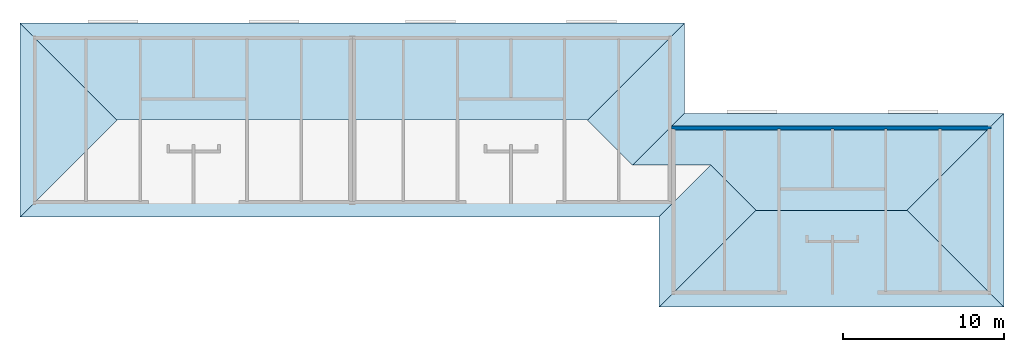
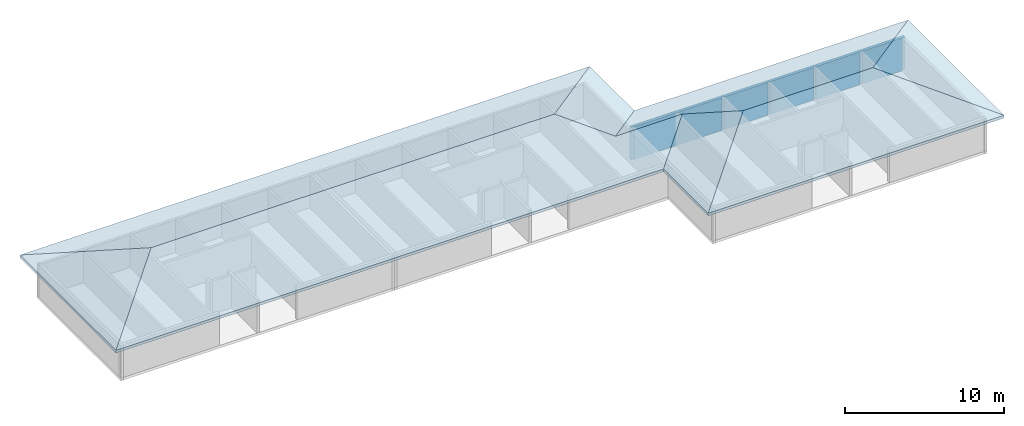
# One storey, part 10 of 10: 8 roofs, 1 wall.
"""IFC2X3 building model written with IfcOpenShell, lengths in metres."""

import ifcopenshell
import ifcopenshell.guid

model = None  # the IFC model being written
_history = None  # IfcOwnerHistory: only IFC2X3 demands one
_inside = {}  # id of a spatial element -> (the spatial element, [elements in it])
_under = {}  # id of a project, library or spatial element -> (it, [spatial elements below it])
_declared = {}  # id of a project -> (the project, [libraries it declares])
_typed = {}  # id of a type object -> (the type object, [elements of that type])
_made_of = {}  # id of a material, layer set ... -> (it, [elements and type objects made of it])


def new_model(schema):
    """Start an empty IFC model of exactly this schema.

    Asked for "IFC4X3", IfcOpenShell would pick the latest addendum, in which some entities
    have other attributes; the version numbers below select the first issue.
    IFC2X3 requires an IfcOwnerHistory on every rooted entity: one is made here for all.
    """
    global model, _history
    if schema == "IFC4X3":
        model = ifcopenshell.file(schema_version=(4, 3, 0, 0))
    else:
        model = ifcopenshell.file(schema=schema)
    _inside.clear()
    _under.clear()
    _declared.clear()
    _typed.clear()
    _made_of.clear()
    _history = None
    if model.schema == "IFC2X3":
        org = make("IfcOrganization", Name="unknown")
        user = make(
            "IfcPersonAndOrganization",
            ThePerson=make("IfcPerson", FamilyName="unknown"),
            TheOrganization=org,
        )
        app = make(
            "IfcApplication",
            ApplicationDeveloper=org,
            Version="unknown",
            ApplicationFullName="unknown",
            ApplicationIdentifier="unknown",
        )
        _history = make(
            "IfcOwnerHistory",
            OwningUser=user,
            OwningApplication=app,
            ChangeAction="ADDED",
            CreationDate=0,
        )
    return model


def make(cls, **values):
    """One entity of the class cls with the attributes given. An attribute that is None is left unset."""
    return model.create_entity(
        cls, **{name: value for name, value in values.items() if value is not None}
    )


def rooted(cls, **values):
    """An entity with a GlobalId (a new one), such as an element, a storey or a relation."""
    return make(cls, GlobalId=ifcopenshell.guid.new(), OwnerHistory=_history, **values)


def si_unit(unit_type, name, prefix=None):
    """IfcSIUnit, for example si_unit("LENGTHUNIT", "METRE", prefix="MILLI")."""
    return make("IfcSIUnit", UnitType=unit_type, Prefix=prefix, Name=name)


def assignment(units):
    """IfcUnitAssignment: the units of a project."""
    return None if units is None else make("IfcUnitAssignment", Units=units)


def point(xyz):
    """IfcCartesianPoint."""
    return None if xyz is None else make("IfcCartesianPoint", Coordinates=xyz)


def direction(xyz):
    """IfcDirection."""
    return None if xyz is None else make("IfcDirection", DirectionRatios=xyz)


def frame(location, z_axis=None, x_axis=None):
    """IfcAxis2Placement3D, a coordinate frame: its origin and axes. An axis left out is left unset."""
    return make(
        "IfcAxis2Placement3D",
        Location=point(location),
        Axis=direction(z_axis),
        RefDirection=direction(x_axis),
    )


def origin():
    """The frame at (0, 0, 0) with its axes left unset."""
    return frame((0.0, 0.0, 0.0))


def origin_with_axes():
    """The frame at (0, 0, 0) with the z axis (0, 0, 1) and the x axis (1, 0, 0) written out."""
    return frame((0.0, 0.0, 0.0), z_axis=(0.0, 0.0, 1.0), x_axis=(1.0, 0.0, 0.0))


def place(relative_to, where):
    """IfcLocalPlacement: puts the frame where relative to a parent placement (None: the world)."""
    return make(
        "IfcLocalPlacement", PlacementRelTo=relative_to, RelativePlacement=where
    )


def context(
    kind, dimensions, precision=None, world=None, true_north=None, identifier=None
):
    """IfcGeometricRepresentationContext, for example the 3D "Model" context."""
    return make(
        "IfcGeometricRepresentationContext",
        ContextIdentifier=identifier,
        ContextType=kind,
        CoordinateSpaceDimension=dimensions,
        Precision=precision,
        WorldCoordinateSystem=world,
        TrueNorth=true_north,
    )


def project(units=None, contexts=None):
    """IfcProject with its units and contexts."""
    return rooted(
        "IfcProject",
        Name="project",
        RepresentationContexts=contexts,
        UnitsInContext=assignment(units),
    )


def spatial(cls, under=None, at=None, **own):
    """A site, building, storey or space (cls), placed at a placement, below another one or the project."""
    s = rooted(cls, ObjectPlacement=at, **own)
    if under is not None:
        _under.setdefault(under.id(), (under, []))[1].append(s)
    return s


def faces_of(points, faces, orient=None, outer=None):
    """IfcFace entities. A face is a list of loops; a loop is a list of indices into points, from 0.

    orient and outer hold one flag for each loop. By default every Orientation is true, the
    first loop of a face is its IfcFaceOuterBound and the others are IfcFaceBound.
    """
    made = []
    for i, loops in enumerate(faces):
        bounds = []
        for j, loop in enumerate(loops):
            is_outer = j == 0 if outer is None else outer[i][j]
            bounds.append(
                make(
                    "IfcFaceOuterBound" if is_outer else "IfcFaceBound",
                    Bound=make("IfcPolyLoop", Polygon=[points[k] for k in loop]),
                    Orientation=True if orient is None else orient[i][j],
                )
            )
        made.append(make("IfcFace", Bounds=bounds))
    return made


def faceted_brep(points, faces, orient=None, outer=None, voids=None):
    """IfcFacetedBrep: a solid bounded by flat faces; with voids (closed shells), ...WithVoids."""
    shared = [point(p) for p in points]
    hull = make("IfcClosedShell", CfsFaces=faces_of(shared, faces, orient, outer))
    if voids is None:
        return make("IfcFacetedBrep", Outer=hull)
    return make(
        "IfcFacetedBrepWithVoids",
        Outer=hull,
        Voids=[
            make(cls, CfsFaces=faces_of(shared, fs, o, b)) for cls, fs, o, b in voids
        ],
    )


def shape(context_of_items, identifier, shape_type, items):
    """IfcShapeRepresentation: the items that make up one representation, for example the "Body"."""
    return make(
        "IfcShapeRepresentation",
        ContextOfItems=context_of_items,
        RepresentationIdentifier=identifier,
        RepresentationType=shape_type,
        Items=items,
    )


def made_of(thing, what):
    """Note that an element or type object is made of a material, layer set ...; save() writes the relation."""
    if what is not None:
        _made_of.setdefault(what.id(), (what, []))[1].append(thing)
    return thing


def element(
    cls,
    number,
    at=None,
    inside=None,
    cuts=None,
    type_object=None,
    material=None,
    context=None,
    identifier="Body",
    shape_type=None,
    held_by="IfcProductDefinitionShape",
    body=None,
    shapes=None,
    **own,
):
    """One element of the class cls, such as IfcWall. Its Tag is "e" and its number.

    at: its placement. inside: the storey or other place that contains it. cuts: it is an
    opening in that element (IfcRelVoidsElement). A single representation is given by context,
    identifier, shape_type and body (its items); several are given by shapes. held_by: the class
    of the entity that holds the representations. save() writes the other relations.
    """
    e = rooted(cls, Tag="e%d" % number, ObjectPlacement=at, **own)
    if body is not None:
        shapes = [shape(context, identifier, shape_type, body)]
    if shapes is not None:
        e.Representation = make(held_by, Representations=shapes)
    if inside is not None:
        _inside.setdefault(inside.id(), (inside, []))[1].append(e)
    if cuts is not None:
        rooted(
            "IfcRelVoidsElement", RelatingBuildingElement=cuts, RelatedOpeningElement=e
        )
    if type_object is not None:
        _typed.setdefault(type_object.id(), (type_object, []))[1].append(e)
    return made_of(e, material)


def aggregate(whole, parts):
    """IfcRelAggregates: a whole, such as a stair, and the parts it consists of."""
    return rooted("IfcRelAggregates", RelatingObject=whole, RelatedObjects=parts)


def save(model, path):
    """Write the relations noted so far, then the file.

    IfcRelAggregates (storeys below a building ...), IfcRelContainedInSpatialStructure (elements
    in a storey), IfcRelDefinesByType, IfcRelAssociatesMaterial and IfcRelDeclares: one each for
    every whole, place, type object, material and project.
    """
    for whole, parts in _under.values():
        aggregate(whole, parts)
    for where, things in _inside.values():
        rooted(
            "IfcRelContainedInSpatialStructure",
            RelatedElements=things,
            RelatingStructure=where,
        )
    for kind, things in _typed.values():
        rooted("IfcRelDefinesByType", RelatedObjects=things, RelatingType=kind)
    for what, things in _made_of.values():
        rooted("IfcRelAssociatesMaterial", RelatedObjects=things, RelatingMaterial=what)
    for by, libraries in _declared.values():
        rooted("IfcRelDeclares", RelatingContext=by, RelatedDefinitions=libraries)
    model.write(path)


model = new_model("IFC2X3")

# Units and contexts
model_context = context("Model", 3, precision=1e-06, world=origin())
ifc_project = project(units=[si_unit("LENGTHUNIT", "METRE"), si_unit("PLANEANGLEUNIT", "RADIAN")], contexts=[model_context])

# Site, building, storey
site = spatial("IfcSite", under=ifc_project, CompositionType="ELEMENT")
building = spatial("IfcBuilding", under=site, CompositionType="ELEMENT")
storey = spatial("IfcBuildingStorey", under=building, Name="r+3", CompositionType="ELEMENT", Elevation=8.1)

# Wall
placement = place(None, origin())
wall_placement = place(placement, frame((59.54999999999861, 4.870077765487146, 8.1), z_axis=(0.0, 0.0, 1.0), x_axis=(-1.0, 0.0, 0.0)))
element("IfcWall", 1, at=wall_placement, inside=storey, context=model_context, shape_type="Brep", body=[
    faceted_brep([(3.079999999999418, 0.18, 2.5), (3.259999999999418, 0.18, 2.5), (3.259999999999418, 0.18, 0.0), (3.079999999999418, 0.18, 0.0), (3.259999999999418, 0.18, 2.5), (3.259999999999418, 0.23, 2.5), (3.259999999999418, 0.23, 0.0), (3.259999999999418, 0.18, 0.0), (3.259999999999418, 0.23, 2.5), (6.460000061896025, 0.23, 2.5), (6.460000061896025, 0.23, 0.0), (3.259999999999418, 0.23, 0.0), (6.460000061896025, 0.23, 2.5), (6.460000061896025, 0.180000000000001, 2.5), (6.460000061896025, 0.180000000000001, 0.0), (6.460000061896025, 0.23, 0.0), (6.460000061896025, 0.180000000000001, 2.5), (6.640000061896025, 0.180000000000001, 2.5), (6.640000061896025, 0.180000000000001, 0.0), (6.460000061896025, 0.180000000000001, 0.0), (6.640000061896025, 0.180000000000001, 2.5), (6.640000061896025, 0.23, 2.5), (6.640000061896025, 0.23, 0.0), (6.640000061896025, 0.180000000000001, 0.0), (6.640000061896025, 0.23, 2.5), (9.774999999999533, 0.23, 2.5), (9.774999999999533, 0.23, 0.0), (6.640000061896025, 0.23, 0.0), (9.774999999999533, 0.23, 2.5), (9.774999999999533, 0.180000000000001, 2.5), (9.774999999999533, 0.180000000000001, 0.0), (9.774999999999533, 0.23, 0.0), (9.774999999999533, 0.180000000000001, 2.5), (9.954999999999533, 0.180000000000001, 2.5), (9.954999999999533, 0.180000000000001, 0.0), (9.774999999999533, 0.180000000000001, 0.0), (9.954999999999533, 0.180000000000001, 2.5), (9.954999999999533, 0.23, 2.5), (9.954999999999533, 0.23, 0.0), (9.954999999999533, 0.180000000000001, 0.0), (9.954999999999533, 0.23, 2.5), (13.089999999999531, 0.23, 2.5), (13.089999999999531, 0.23, 0.0), (9.954999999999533, 0.23, 0.0), (13.089999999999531, 0.23, 2.5), (13.089999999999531, 0.18, 2.5), (13.089999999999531, 0.18, 0.0), (13.089999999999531, 0.23, 0.0), (13.089999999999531, 0.18, 2.5), (13.26999999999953, 0.18, 2.5), (13.26999999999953, 0.18, 0.0), (13.089999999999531, 0.18, 0.0), (13.26999999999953, 0.18, 2.5), (13.26999999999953, 0.23, 2.5), (13.26999999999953, 0.23, 0.0), (13.26999999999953, 0.18, 0.0), (13.26999999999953, 0.23, 2.5), (19.619999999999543, 0.23, 2.5), (19.619999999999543, 0.23, 0.0), (13.26999999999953, 0.23, 0.0), (19.619999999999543, 0.23, 2.5), (19.619999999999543, 0.22, 2.5), (19.619999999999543, 0.22, 0.0), (19.619999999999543, 0.23, 0.0), (19.619999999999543, 0.22, 2.5), (19.669999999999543, 0.22, 2.5), (19.669999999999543, 0.22, 0.0), (19.619999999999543, 0.22, 0.0), (19.669999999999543, 0.22, 2.5), (19.669999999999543, 0.18, 2.5), (19.669999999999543, 0.18, 0.0), (19.669999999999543, 0.22, 0.0), (19.669999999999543, 0.18, 2.5), (19.849999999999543, 0.18, 2.5), (19.849999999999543, 0.18, 0.0), (19.669999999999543, 0.18, 0.0), (19.849999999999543, 0.18, 2.5), (19.849999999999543, 0.0, 2.5), (19.849999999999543, 0.0, 0.0), (19.849999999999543, 0.18, 0.0), (19.849999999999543, 0.0, 2.5), (0.0, 0.0, 2.5), (0.0, 0.0, 0.0), (19.849999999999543, 0.0, 0.0), (0.0, 0.0, 2.5), (0.0, 0.18, 2.5), (0.0, 0.18, 0.0), (0.0, 0.0, 0.0), (0.0, 0.18, 2.5), (0.18, 0.18, 2.5), (0.18, 0.18, 0.0), (0.0, 0.18, 0.0), (0.18, 0.18, 2.5), (0.18, 0.22, 2.5), (0.18, 0.22, 0.0), (0.18, 0.18, 0.0), (0.18, 0.22, 2.5), (0.22, 0.22, 2.5), (0.22, 0.22, 0.0), (0.18, 0.22, 0.0), (0.22, 0.22, 2.5), (0.22, 0.23, 2.5), (0.22, 0.23, 0.0), (0.22, 0.22, 0.0), (0.22, 0.23, 2.5), (3.079999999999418, 0.23, 2.5), (3.079999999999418, 0.23, 0.0), (0.22, 0.23, 0.0), (3.079999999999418, 0.23, 2.5), (3.079999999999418, 0.18, 2.5), (3.079999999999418, 0.18, 0.0), (3.079999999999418, 0.23, 0.0), (3.079999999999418, 0.18, 2.5), (3.079999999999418, 0.23, 2.5), (0.22, 0.23, 2.5), (0.22, 0.22, 2.5), (0.18, 0.22, 2.5), (0.18, 0.18, 2.5), (0.0, 0.18, 2.5), (0.0, 0.0, 2.5), (19.849999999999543, 0.0, 2.5), (19.849999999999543, 0.18, 2.5), (19.669999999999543, 0.18, 2.5), (19.669999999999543, 0.22, 2.5), (19.619999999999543, 0.22, 2.5), (19.619999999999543, 0.23, 2.5), (13.26999999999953, 0.23, 2.5), (13.26999999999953, 0.18, 2.5), (13.089999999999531, 0.18, 2.5), (13.089999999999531, 0.23, 2.5), (9.954999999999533, 0.23, 2.5), (9.954999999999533, 0.180000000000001, 2.5), (9.774999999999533, 0.180000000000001, 2.5), (9.774999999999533, 0.23, 2.5), (6.640000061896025, 0.23, 2.5), (6.640000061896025, 0.180000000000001, 2.5), (6.460000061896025, 0.180000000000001, 2.5), (6.460000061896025, 0.23, 2.5), (3.259999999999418, 0.23, 2.5), (3.259999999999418, 0.18, 2.5), (3.079999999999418, 0.18, 0.0), (3.259999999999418, 0.18, 0.0), (3.259999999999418, 0.23, 0.0), (6.460000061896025, 0.23, 0.0), (6.460000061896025, 0.180000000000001, 0.0), (6.640000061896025, 0.180000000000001, 0.0), (6.640000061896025, 0.23, 0.0), (9.774999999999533, 0.23, 0.0), (9.774999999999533, 0.180000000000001, 0.0), (9.954999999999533, 0.180000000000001, 0.0), (9.954999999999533, 0.23, 0.0), (13.089999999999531, 0.23, 0.0), (13.089999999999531, 0.18, 0.0), (13.26999999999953, 0.18, 0.0), (13.26999999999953, 0.23, 0.0), (19.619999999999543, 0.23, 0.0), (19.619999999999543, 0.22, 0.0), (19.669999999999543, 0.22, 0.0), (19.669999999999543, 0.18, 0.0), (19.849999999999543, 0.18, 0.0), (19.849999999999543, 0.0, 0.0), (0.0, 0.0, 0.0), (0.0, 0.18, 0.0), (0.18, 0.18, 0.0), (0.18, 0.22, 0.0), (0.22, 0.22, 0.0), (0.22, 0.23, 0.0), (3.079999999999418, 0.23, 0.0)], [[[0, 1, 2, 3]], [[4, 5, 6, 7]], [[8, 9, 10, 11]], [[12, 13, 14, 15]], [[16, 17, 18, 19]], [[20, 21, 22, 23]], [[24, 25, 26, 27]], [[28, 29, 30, 31]], [[32, 33, 34, 35]], [[36, 37, 38, 39]], [[40, 41, 42, 43]], [[44, 45, 46, 47]], [[48, 49, 50, 51]], [[52, 53, 54, 55]], [[56, 57, 58, 59]], [[60, 61, 62, 63]], [[64, 65, 66, 67]], [[68, 69, 70, 71]], [[72, 73, 74, 75]], [[76, 77, 78, 79]], [[80, 81, 82, 83]], [[84, 85, 86, 87]], [[88, 89, 90, 91]], [[92, 93, 94, 95]], [[96, 97, 98, 99]], [[100, 101, 102, 103]], [[104, 105, 106, 107]], [[108, 109, 110, 111]], [[112, 113, 114, 115, 116, 117, 118, 119, 120, 121, 122, 123, 124, 125, 126, 127, 128, 129, 130, 131, 132, 133, 134, 135, 136, 137, 138, 139]], [[140, 141, 142, 143, 144, 145, 146, 147, 148, 149, 150, 151, 152, 153, 154, 155, 156, 157, 158, 159, 160, 161, 162, 163, 164, 165, 166, 167]]]),
])

# Roofs
roof_1_placement = place(placement, origin_with_axes())
element("IfcRoof", 2, at=roof_1_placement, inside=storey, context=model_context, shape_type="Brep", body=[
    faceted_brep([(37.27499989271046, 2.445077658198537, 11.92875003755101), (37.274999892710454, 2.445077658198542, 12.140646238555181), (40.49999999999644, 5.670077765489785, 11.01189620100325), (40.50000000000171, 5.670077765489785, 10.79999999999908), (40.50000000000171, 5.670077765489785, 10.79999999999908), (40.49999999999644, 5.670077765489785, 11.01189620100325), (60.34999999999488, 5.670077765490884, 11.01189620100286), (60.350000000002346, 5.670077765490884, 10.79999999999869), (60.350000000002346, 5.670077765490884, 10.79999999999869), (60.34999999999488, 5.670077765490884, 11.01189620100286), (54.324999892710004, -0.354922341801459, 13.12064623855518), (54.324999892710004, -0.354922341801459, 12.908750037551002), (54.324999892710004, -0.354922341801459, 12.908750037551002), (54.324999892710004, -0.354922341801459, 13.12064623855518), (44.92500010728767, -0.354922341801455, 13.12064623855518), (44.925000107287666, -0.354922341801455, 12.908750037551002), (44.925000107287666, -0.354922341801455, 12.908750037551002), (44.92500010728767, -0.354922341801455, 13.12064623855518), (42.125000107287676, 2.44507765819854, 12.140646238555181), (42.125000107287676, 2.445077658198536, 11.92875003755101), (42.125000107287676, 2.445077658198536, 11.92875003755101), (42.125000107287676, 2.44507765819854, 12.140646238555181), (37.274999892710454, 2.445077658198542, 12.140646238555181), (37.27499989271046, 2.445077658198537, 11.92875003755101), (37.274999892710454, 2.445077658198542, 12.140646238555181), (42.125000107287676, 2.44507765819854, 12.140646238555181), (44.92500010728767, -0.354922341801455, 13.12064623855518), (54.324999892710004, -0.354922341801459, 13.12064623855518), (60.34999999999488, 5.670077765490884, 11.01189620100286), (40.49999999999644, 5.670077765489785, 11.01189620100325), (60.350000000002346, 5.670077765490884, 10.79999999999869), (54.324999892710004, -0.354922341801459, 12.908750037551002), (44.925000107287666, -0.354922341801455, 12.908750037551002), (42.125000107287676, 2.445077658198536, 11.92875003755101), (37.27499989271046, 2.445077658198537, 11.92875003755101), (40.50000000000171, 5.670077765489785, 10.79999999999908)], [[[0, 1, 2, 3]], [[4, 5, 6, 7]], [[8, 9, 10, 11]], [[12, 13, 14, 15]], [[16, 17, 18, 19]], [[20, 21, 22, 23]], [[24, 25, 26, 27, 28, 29]], [[30, 31, 32, 33, 34, 35]]]),
])
roof_2_placement = place(placement, origin_with_axes())
element("IfcRoof", 3, at=roof_2_placement, inside=storey, context=model_context, shape_type="Brep", body=[
    faceted_brep([(44.925000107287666, -0.354922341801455, 12.908750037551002), (44.92500010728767, -0.354922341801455, 13.12064623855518), (38.899998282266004, -6.379924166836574, 11.011895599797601), (38.899998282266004, -6.37992416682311, 10.79999939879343), (38.899998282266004, -6.37992416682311, 10.79999939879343), (38.899998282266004, -6.379924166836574, 11.011895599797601), (38.90000000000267, -0.779922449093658, 11.01189620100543), (38.90000000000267, -0.779922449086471, 10.80000000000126), (38.90000000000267, -0.779922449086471, 10.80000000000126), (38.90000000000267, -0.779922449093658, 11.01189620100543), (42.125000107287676, 2.44507765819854, 12.140646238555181), (42.125000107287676, 2.445077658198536, 11.92875003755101), (42.125000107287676, 2.445077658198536, 11.92875003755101), (42.125000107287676, 2.44507765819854, 12.140646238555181), (44.92500010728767, -0.354922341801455, 13.12064623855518), (44.925000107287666, -0.354922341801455, 12.908750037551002), (44.92500010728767, -0.354922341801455, 13.12064623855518), (42.125000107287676, 2.44507765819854, 12.140646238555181), (38.90000000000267, -0.779922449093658, 11.01189620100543), (38.899998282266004, -6.379924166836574, 11.011895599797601), (38.90000000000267, -0.779922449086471, 10.80000000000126), (42.125000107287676, 2.445077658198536, 11.92875003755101), (44.925000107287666, -0.354922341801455, 12.908750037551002), (38.899998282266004, -6.37992416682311, 10.79999939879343)], [[[0, 1, 2, 3]], [[4, 5, 6, 7]], [[8, 9, 10, 11]], [[12, 13, 14, 15]], [[16, 17, 18, 19]], [[20, 21, 22, 23]]]),
])
roof_3_placement = place(placement, origin_with_axes())
element("IfcRoof", 4, at=roof_3_placement, inside=storey, context=model_context, shape_type="Brep", body=[
    faceted_brep([(5.225000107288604, 5.245077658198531, 12.908750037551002), (5.225000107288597, 5.245077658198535, 13.12064623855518), (-0.800000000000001, -0.779922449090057, 11.01189620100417), (-0.8, -0.779922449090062, 10.8), (-0.8, -0.779922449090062, 10.8), (-0.800000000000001, -0.779922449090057, 11.01189620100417), (-0.8, 11.270077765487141, 11.01189620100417), (-0.8, 11.270077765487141, 10.8), (-0.8, 11.270077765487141, 10.8), (-0.8, 11.270077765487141, 11.01189620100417), (5.225000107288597, 5.245077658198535, 13.12064623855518), (5.225000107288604, 5.245077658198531, 12.908750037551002), (5.225000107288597, 5.245077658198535, 13.12064623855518), (-0.8, 11.270077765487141, 11.01189620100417), (-0.800000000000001, -0.779922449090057, 11.01189620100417), (-0.8, 11.270077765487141, 10.8), (5.225000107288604, 5.245077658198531, 12.908750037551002), (-0.8, -0.779922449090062, 10.8)], [[[0, 1, 2, 3]], [[4, 5, 6, 7]], [[8, 9, 10, 11]], [[12, 13, 14]], [[15, 16, 17]]]),
])
roof_4_placement = place(placement, origin_with_axes())
element("IfcRoof", 5, at=roof_4_placement, inside=storey, context=model_context, shape_type="Brep", body=[
    faceted_brep([(5.225000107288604, 5.245077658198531, 12.908750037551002), (5.225000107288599, 5.245077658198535, 13.12064623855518), (-0.799999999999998, 11.270077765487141, 11.01189620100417), (-0.8, 11.270077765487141, 10.8), (-0.8, 11.270077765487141, 10.8), (-0.799999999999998, 11.270077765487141, 11.01189620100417), (40.49999999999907, 11.270077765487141, 11.01189620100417), (40.49999999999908, 11.270077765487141, 10.8), (40.49999999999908, 11.270077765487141, 10.8), (40.49999999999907, 11.270077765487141, 11.01189620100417), (34.47499989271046, 5.245077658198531, 13.12064623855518), (34.474999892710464, 5.245077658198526, 12.90875003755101), (34.474999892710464, 5.245077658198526, 12.90875003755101), (34.47499989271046, 5.245077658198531, 13.12064623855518), (5.225000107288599, 5.245077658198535, 13.12064623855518), (5.225000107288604, 5.245077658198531, 12.908750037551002), (5.225000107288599, 5.245077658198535, 13.12064623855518), (34.47499989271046, 5.245077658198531, 13.12064623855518), (40.49999999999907, 11.270077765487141, 11.01189620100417), (-0.799999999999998, 11.270077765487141, 11.01189620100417), (40.49999999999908, 11.270077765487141, 10.8), (34.474999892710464, 5.245077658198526, 12.90875003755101), (5.225000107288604, 5.245077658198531, 12.908750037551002), (-0.8, 11.270077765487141, 10.8)], [[[0, 1, 2, 3]], [[4, 5, 6, 7]], [[8, 9, 10, 11]], [[12, 13, 14, 15]], [[16, 17, 18, 19]], [[20, 21, 22, 23]]]),
])
roof_5_placement = place(placement, origin_with_axes())
element("IfcRoof", 6, at=roof_5_placement, inside=storey, context=model_context, shape_type="Brep", body=[
    faceted_brep([(34.474999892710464, 5.245077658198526, 12.90875003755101), (34.47499989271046, 5.245077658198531, 13.12064623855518), (40.499999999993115, 11.270077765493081, 11.01189620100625), (40.499999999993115, 11.27007776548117, 10.800000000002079), (40.499999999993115, 11.27007776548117, 10.800000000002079), (40.499999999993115, 11.270077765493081, 11.01189620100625), (40.4999999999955, 5.670077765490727, 11.01189620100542), (40.4999999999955, 5.670077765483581, 10.80000000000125), (40.4999999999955, 5.670077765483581, 10.80000000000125), (40.4999999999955, 5.670077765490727, 11.01189620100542), (37.274999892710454, 2.445077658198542, 12.140646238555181), (37.27499989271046, 2.445077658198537, 11.92875003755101), (37.27499989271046, 2.445077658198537, 11.92875003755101), (37.274999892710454, 2.445077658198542, 12.140646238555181), (34.47499989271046, 5.245077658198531, 13.12064623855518), (34.474999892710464, 5.245077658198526, 12.90875003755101), (34.47499989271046, 5.245077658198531, 13.12064623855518), (37.274999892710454, 2.445077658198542, 12.140646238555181), (40.4999999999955, 5.670077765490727, 11.01189620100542), (40.499999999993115, 11.270077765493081, 11.01189620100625), (40.4999999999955, 5.670077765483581, 10.80000000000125), (37.27499989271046, 2.445077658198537, 11.92875003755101), (34.474999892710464, 5.245077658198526, 12.90875003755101), (40.499999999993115, 11.27007776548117, 10.800000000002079)], [[[0, 1, 2, 3]], [[4, 5, 6, 7]], [[8, 9, 10, 11]], [[12, 13, 14, 15]], [[16, 17, 18, 19]], [[20, 21, 22, 23]]]),
])
roof_6_placement = place(placement, origin_with_axes())
element("IfcRoof", 7, at=roof_6_placement, inside=storey, context=model_context, shape_type="Brep", body=[
    faceted_brep([(54.324999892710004, -0.354922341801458, 12.908750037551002), (54.324999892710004, -0.354922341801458, 13.12064623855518), (60.34991132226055, -6.379833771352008, 11.01192723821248), (60.34991132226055, -6.379833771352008, 10.80003103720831), (60.34991132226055, -6.379833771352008, 10.80003103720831), (60.34991132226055, -6.379833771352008, 11.01192723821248), (38.89999828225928, -6.379924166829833, 11.01189559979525), (38.89999828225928, -6.379924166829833, 10.79999939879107), (38.89999828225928, -6.379924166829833, 10.79999939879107), (38.89999828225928, -6.379924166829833, 11.01189559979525), (44.92500010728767, -0.354922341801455, 13.12064623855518), (44.925000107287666, -0.354922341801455, 12.908750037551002), (44.925000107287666, -0.354922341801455, 12.908750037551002), (44.92500010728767, -0.354922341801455, 13.12064623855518), (54.324999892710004, -0.354922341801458, 13.12064623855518), (54.324999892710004, -0.354922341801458, 12.908750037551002), (54.324999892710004, -0.354922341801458, 13.12064623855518), (44.92500010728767, -0.354922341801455, 13.12064623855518), (38.89999828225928, -6.379924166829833, 11.01189559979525), (60.34991132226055, -6.379833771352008, 11.01192723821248), (38.89999828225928, -6.379924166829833, 10.79999939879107), (44.925000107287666, -0.354922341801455, 12.908750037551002), (54.324999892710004, -0.354922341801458, 12.908750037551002), (60.34991132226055, -6.379833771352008, 10.80003103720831)], [[[0, 1, 2, 3]], [[4, 5, 6, 7]], [[8, 9, 10, 11]], [[12, 13, 14, 15]], [[16, 17, 18, 19]], [[20, 21, 22, 23]]]),
])
roof_7_placement = place(placement, origin_with_axes())
element("IfcRoof", 8, at=roof_7_placement, inside=storey, context=model_context, shape_type="Brep", body=[
    faceted_brep([(42.125000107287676, 2.445077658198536, 11.92875003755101), (42.125000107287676, 2.44507765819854, 12.140646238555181), (38.90000000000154, -0.779922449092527, 11.01189620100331), (38.89999999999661, -0.779922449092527, 10.79999999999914), (38.89999999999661, -0.779922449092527, 10.79999999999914), (38.90000000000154, -0.779922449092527, 11.01189620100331), (-0.799999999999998, -0.779922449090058, 11.01189620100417), (-0.799999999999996, -0.779922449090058, 10.8), (-0.799999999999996, -0.779922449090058, 10.8), (-0.799999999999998, -0.779922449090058, 11.01189620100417), (5.225000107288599, 5.245077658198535, 13.12064623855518), (5.225000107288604, 5.245077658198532, 12.908750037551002), (5.225000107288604, 5.245077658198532, 12.908750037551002), (5.225000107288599, 5.245077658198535, 13.12064623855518), (34.47499989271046, 5.245077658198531, 13.12064623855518), (34.474999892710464, 5.245077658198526, 12.90875003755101), (34.474999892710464, 5.245077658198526, 12.90875003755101), (34.47499989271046, 5.245077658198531, 13.12064623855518), (37.274999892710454, 2.445077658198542, 12.140646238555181), (37.27499989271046, 2.445077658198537, 11.92875003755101), (37.27499989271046, 2.445077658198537, 11.92875003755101), (37.274999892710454, 2.445077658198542, 12.140646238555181), (42.125000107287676, 2.44507765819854, 12.140646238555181), (42.125000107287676, 2.445077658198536, 11.92875003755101), (42.125000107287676, 2.44507765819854, 12.140646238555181), (37.274999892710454, 2.445077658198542, 12.140646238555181), (34.47499989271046, 5.245077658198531, 13.12064623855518), (5.225000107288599, 5.245077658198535, 13.12064623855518), (-0.799999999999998, -0.779922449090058, 11.01189620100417), (38.90000000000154, -0.779922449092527, 11.01189620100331), (-0.799999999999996, -0.779922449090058, 10.8), (5.225000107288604, 5.245077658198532, 12.908750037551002), (34.474999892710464, 5.245077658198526, 12.90875003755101), (37.27499989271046, 2.445077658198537, 11.92875003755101), (42.125000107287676, 2.445077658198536, 11.92875003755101), (38.89999999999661, -0.779922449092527, 10.79999999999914)], [[[0, 1, 2, 3]], [[4, 5, 6, 7]], [[8, 9, 10, 11]], [[12, 13, 14, 15]], [[16, 17, 18, 19]], [[20, 21, 22, 23]], [[24, 25, 26, 27, 28, 29]], [[30, 31, 32, 33, 34, 35]]]),
])
roof_8_placement = place(placement, origin_with_axes())
element("IfcRoof", 9, at=roof_8_placement, inside=storey, context=model_context, shape_type="Brep", body=[
    faceted_brep([(54.324999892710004, -0.354922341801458, 12.908750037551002), (54.324999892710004, -0.354922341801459, 13.12064623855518), (60.34999999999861, 5.670077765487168, 11.01189620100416), (60.34999999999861, 5.670077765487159, 10.799999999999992), (60.34999999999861, 5.670077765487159, 10.799999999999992), (60.34999999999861, 5.670077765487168, 11.01189620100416), (60.34991132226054, -6.379833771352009, 11.01192723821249), (60.34991132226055, -6.379833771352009, 10.80003103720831), (60.34991132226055, -6.379833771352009, 10.80003103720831), (60.34991132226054, -6.379833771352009, 11.01192723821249), (54.324999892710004, -0.354922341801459, 13.12064623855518), (54.324999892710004, -0.354922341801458, 12.908750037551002), (54.324999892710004, -0.354922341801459, 13.12064623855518), (60.34991132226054, -6.379833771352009, 11.01192723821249), (60.34999999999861, 5.670077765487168, 11.01189620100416), (60.34991132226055, -6.379833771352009, 10.80003103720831), (54.324999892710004, -0.354922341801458, 12.908750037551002), (60.34999999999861, 5.670077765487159, 10.799999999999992)], [[[0, 1, 2, 3]], [[4, 5, 6, 7]], [[8, 9, 10, 11]], [[12, 13, 14]], [[15, 16, 17]]]),
])

save(model, "model.ifc")
